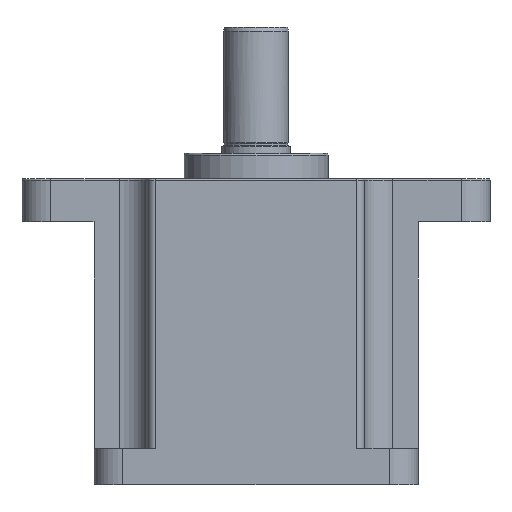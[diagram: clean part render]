
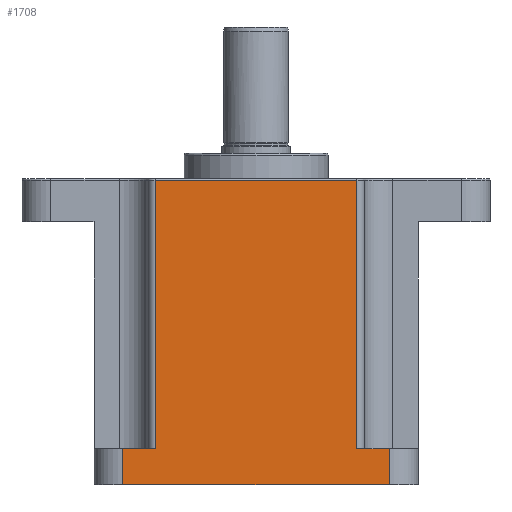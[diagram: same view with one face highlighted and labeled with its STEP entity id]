
A CAD part, front view. The second image highlights one B-rep face of the part: STEP entity #1708.
In plain terms, the highlighted planar face has unit normal (0, -1, 0).
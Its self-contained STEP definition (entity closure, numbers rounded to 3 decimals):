
#1091=CARTESIAN_POINT('',(-28.,-45.,64.5));
#1092=VERTEX_POINT('',#1091);
#1127=CARTESIAN_POINT('',(28.,-45.,64.5));
#1128=VERTEX_POINT('',#1127);
#1160=CARTESIAN_POINT('',(-28.,-45.,64.5));
#1161=DIRECTION('',(1.0,0.0,0.0));
#1162=VECTOR('',#1161,56.);
#1163=LINE('',#1160,#1162);
#1164=EDGE_CURVE('',#1092,#1128,#1163,.T.);
#1190=CARTESIAN_POINT('',(-28.,-45.,-10.0));
#1191=VERTEX_POINT('',#1190);
#1199=CARTESIAN_POINT('',(-28.,-45.,-10.0));
#1200=DIRECTION('',(0.0,0.0,1.0));
#1201=VECTOR('',#1200,74.5);
#1202=LINE('',#1199,#1201);
#1203=EDGE_CURVE('',#1191,#1092,#1202,.T.);
#1634=CARTESIAN_POINT('',(28.,-45.,-10.0));
#1635=VERTEX_POINT('',#1634);
#1636=CARTESIAN_POINT('',(28.,-45.,64.5));
#1637=DIRECTION('',(0.0,0.0,-1.0));
#1638=VECTOR('',#1637,74.5);
#1639=LINE('',#1636,#1638);
#1640=EDGE_CURVE('',#1128,#1635,#1639,.T.);
#1660=CARTESIAN_POINT('',(-30.,-45.,65.0));
#1661=DIRECTION('',(0.0,-1.0,0.0));
#1662=DIRECTION('',(0.0,0.0,-1.0));
#1663=AXIS2_PLACEMENT_3D('',#1660,#1661,#1662);
#1664=PLANE('',#1663);
#1665=ORIENTED_EDGE('',*,*,#1164,.F.);
#1666=ORIENTED_EDGE('',*,*,#1203,.F.);
#1667=CARTESIAN_POINT('',(-37.0,-45.0,-10.0));
#1668=VERTEX_POINT('',#1667);
#1669=CARTESIAN_POINT('',(-28.,-45.0,-10.0));
#1670=DIRECTION('',(-1.0,0.0,0.0));
#1671=VECTOR('',#1670,9.);
#1672=LINE('',#1669,#1671);
#1673=EDGE_CURVE('',#1191,#1668,#1672,.T.);
#1674=ORIENTED_EDGE('',*,*,#1673,.T.);
#1675=CARTESIAN_POINT('',(-37.0,-45.0,-20.0));
#1676=VERTEX_POINT('',#1675);
#1677=CARTESIAN_POINT('',(-37.0,-45.0,-20.0));
#1678=DIRECTION('',(0.0,0.0,1.0));
#1679=VECTOR('',#1678,10.0);
#1680=LINE('',#1677,#1679);
#1681=EDGE_CURVE('',#1676,#1668,#1680,.T.);
#1682=ORIENTED_EDGE('',*,*,#1681,.F.);
#1683=CARTESIAN_POINT('',(37.0,-45.0,-20.0));
#1684=VERTEX_POINT('',#1683);
#1685=CARTESIAN_POINT('',(37.0,-45.0,-20.0));
#1686=DIRECTION('',(-1.0,0.0,0.0));
#1687=VECTOR('',#1686,74.0);
#1688=LINE('',#1685,#1687);
#1689=EDGE_CURVE('',#1684,#1676,#1688,.T.);
#1690=ORIENTED_EDGE('',*,*,#1689,.F.);
#1691=CARTESIAN_POINT('',(37.0,-45.0,-10.0));
#1692=VERTEX_POINT('',#1691);
#1693=CARTESIAN_POINT('',(37.0,-45.0,-20.0));
#1694=DIRECTION('',(0.0,0.0,1.0));
#1695=VECTOR('',#1694,10.0);
#1696=LINE('',#1693,#1695);
#1697=EDGE_CURVE('',#1684,#1692,#1696,.T.);
#1698=ORIENTED_EDGE('',*,*,#1697,.T.);
#1699=CARTESIAN_POINT('',(37.0,-45.0,-10.0));
#1700=DIRECTION('',(-1.0,0.0,0.0));
#1701=VECTOR('',#1700,9.);
#1702=LINE('',#1699,#1701);
#1703=EDGE_CURVE('',#1692,#1635,#1702,.T.);
#1704=ORIENTED_EDGE('',*,*,#1703,.T.);
#1705=ORIENTED_EDGE('',*,*,#1640,.F.);
#1706=EDGE_LOOP('',(#1665,#1666,#1674,#1682,#1690,#1698,#1704,#1705));
#1707=FACE_OUTER_BOUND('',#1706,.T.);
#1708=ADVANCED_FACE('',(#1707),#1664,.T.);
